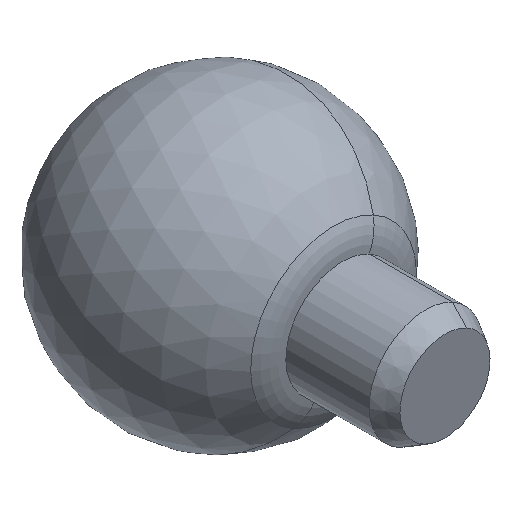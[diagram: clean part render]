
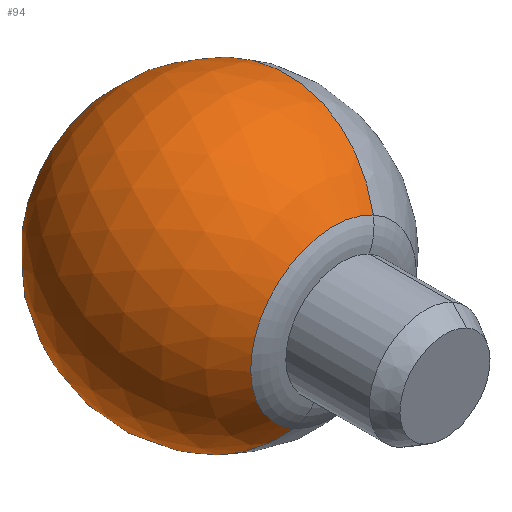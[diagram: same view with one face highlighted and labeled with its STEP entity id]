
A CAD part, isometric view. The second image highlights one B-rep face of the part: STEP entity #94.
In plain terms, the highlighted spherical face has radius 25 mm.
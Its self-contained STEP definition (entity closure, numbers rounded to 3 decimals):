
#52=CARTESIAN_POINT('Axis2P3D Location',(0.,40.,0.)) ;
#57=CARTESIAN_POINT('Axis2P3D Location',(0.,40.,0.)) ;
#61=CARTESIAN_POINT('Vertex',(0.,65.,0.)) ;
#63=CARTESIAN_POINT('Vertex',(7.05,19.783,12.906)) ;
#70=CARTESIAN_POINT('Vertex',(-7.05,19.783,-12.906)) ;
#73=CARTESIAN_POINT('Axis2P3D Location',(0.,40.,0.)) ;
#84=CARTESIAN_POINT('Axis2P3D Location',(0.,19.783,0.)) ;
#53=DIRECTION('Axis2P3D Direction',(0.,1.,0.)) ;
#54=DIRECTION('Axis2P3D XDirection',(0.479,0.,0.878)) ;
#58=DIRECTION('Axis2P3D Direction',(-0.878,0.,0.479)) ;
#74=DIRECTION('Axis2P3D Direction',(0.878,0.,-0.479)) ;
#85=DIRECTION('Axis2P3D Direction',(0.,1.,0.)) ;
#55=AXIS2_PLACEMENT_3D('Sphere Axis2P3D',#52,#53,#54) ;
#59=AXIS2_PLACEMENT_3D('Circle Axis2P3D',#57,#58,$) ;
#75=AXIS2_PLACEMENT_3D('Circle Axis2P3D',#73,#74,$) ;
#86=AXIS2_PLACEMENT_3D('Circle Axis2P3D',#84,#85,$) ;
#90=ORIENTED_EDGE('',*,*,#77,.T.) ;
#91=ORIENTED_EDGE('',*,*,#88,.T.) ;
#92=ORIENTED_EDGE('',*,*,#65,.F.) ;
#94=ADVANCED_FACE('Corps principal',(#93),#56,.T.) ;
#60=CIRCLE('generated circle',#59,25.) ;
#76=CIRCLE('generated circle',#75,25.) ;
#87=CIRCLE('generated circle',#86,14.706) ;
#65=EDGE_CURVE('',#62,#64,#60,.F.) ;
#77=EDGE_CURVE('',#62,#71,#76,.F.) ;
#88=EDGE_CURVE('',#71,#64,#87,.T.) ;
#89=EDGE_LOOP('',(#90,#91,#92)) ;
#93=FACE_OUTER_BOUND('',#89,.T.) ;
#56=SPHERICAL_SURFACE('',#55,25.) ;
#62=VERTEX_POINT('',#61) ;
#64=VERTEX_POINT('',#63) ;
#71=VERTEX_POINT('',#70) ;
